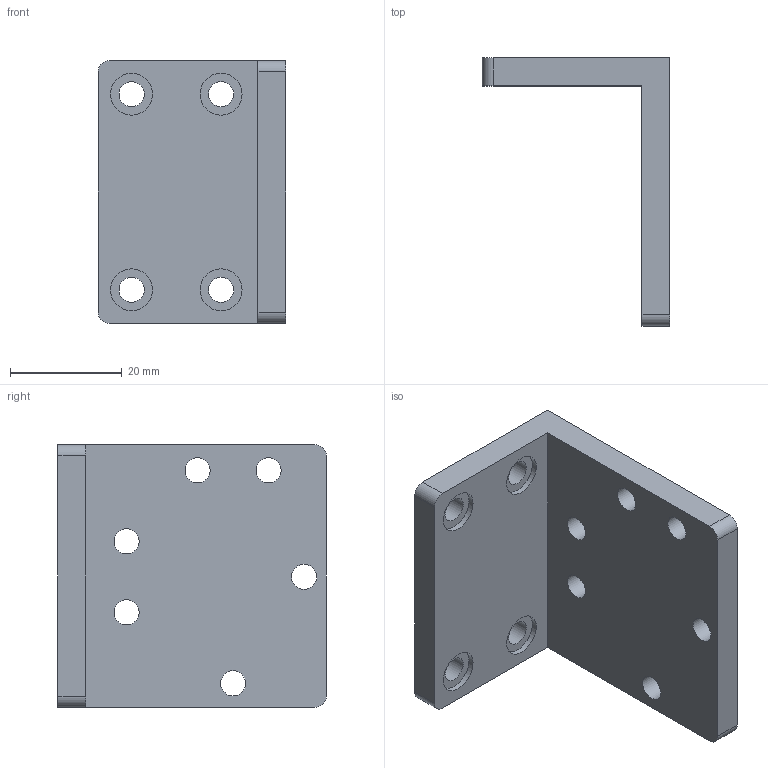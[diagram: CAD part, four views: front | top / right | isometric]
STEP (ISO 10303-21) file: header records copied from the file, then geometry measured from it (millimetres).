
FILE_DESCRIPTION(/* description */ (''),/* implementation_level */ '2;1');
FILE_NAME(/* name */ 'supporter-1.stp',/* time_stamp */ '2026-04-15T18:55:25+08:00',/* author */ ('xuwenjie'),/* organization */ (''),/* preprocessor_version */ 'ST-DEVELOPER v20',/* originating_system */ 'Autodesk Inventor 2024',/* authorisation */ '');
FILE_SCHEMA (('AUTOMOTIVE_DESIGN { 1 0 10303 214 3 1 1 }'));
Length unit declared in the file: millimetre
Products named in the file (1): aod-3
Bounding box: 33.6 x 48 x 47 mm (x, y, z)
Volume: 17075.5 mm3; surface area: 8838.8 mm2
Topology: 1 solids, 1 shells, 30 faces, 72 edges, 48 vertices
Faces by surface type: cylinder 18, plane 12
Full cylindrical faces by diameter (mm): 4.5 x10, 7.5 x4
Entity records: 975 total; most frequent: DIRECTION 170, CARTESIAN_POINT 151, ORIENTED_EDGE 144, EDGE_CURVE 72, AXIS2_PLACEMENT_3D 67, EDGE_LOOP 54, VERTEX_POINT 48, LINE 36
